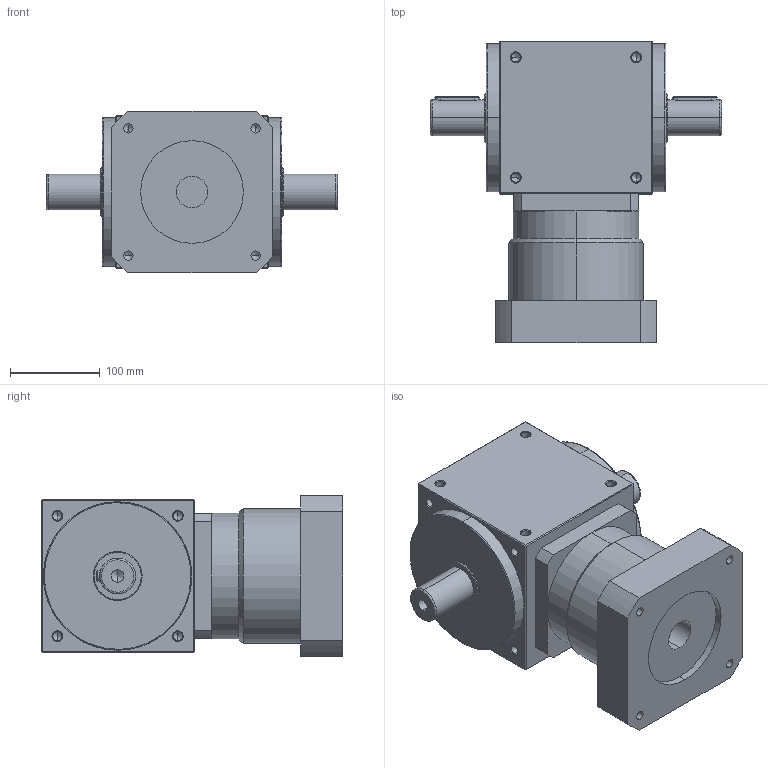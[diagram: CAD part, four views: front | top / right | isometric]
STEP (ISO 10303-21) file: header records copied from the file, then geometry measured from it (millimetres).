
FILE_DESCRIPTION (( 'STEP AP214' ), '1' );
FILE_NAME ('AT170-FL-L1--35-114.STEP', '2020-11-19T09:53:37', ( '微软用户' ), ( '微软中国' ), 'SwSTEP 2.0', 'SolidWorks 2014', '' );
FILE_SCHEMA (( 'AUTOMOTIVE_DESIGN' ));
Length unit declared in the file: millimetre
Products named in the file (2): AT170-FL-L1--35-114
Bounding box: 324 x 335.5 x 180 mm (x, y, z)
Volume: 9046129.5 mm3; surface area: 354356.4 mm2
Topology: 1 solids, 1 shells, 292 faces, 734 edges, 406 vertices
Faces by surface type: cylinder 124, cone 102, plane 58, bspline 8
Entity records: 11755 total; most frequent: CARTESIAN_POINT 2034, DIRECTION 1366, ORIENTED_EDGE 1364, EDGE_CURVE 682, AXIS2_PLACEMENT_3D 522, VERTEX_POINT 406, EDGE_LOOP 330, VECTOR 322
